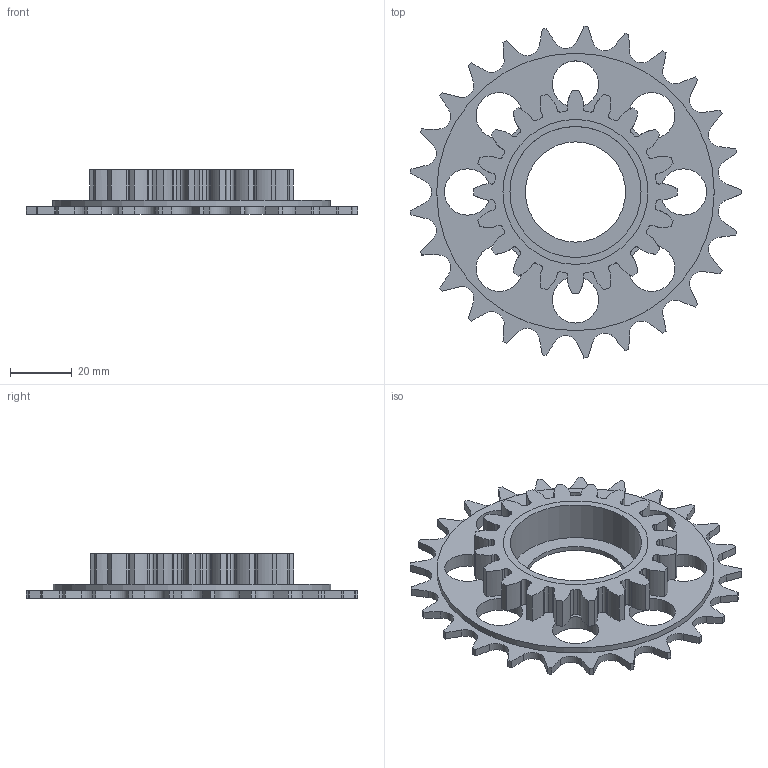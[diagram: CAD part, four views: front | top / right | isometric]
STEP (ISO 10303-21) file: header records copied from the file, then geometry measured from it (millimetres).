
FILE_DESCRIPTION(/* description */ (''),/* implementation_level */ '2;1');
FILE_NAME(/* name */ 'C:/Users/ramar/Desktop/asofij/GearSprocket v4.step',/* time_stamp */ '2021-02-07T11:45:06-06:00',/* author */ (''),/* organization */ (''),/* preprocessor_version */ 'ST-DEVELOPER v18.1',/* originating_system */ 'Autodesk Translation Framework v9.7.1.1290',/* authorisation */ '');
FILE_SCHEMA (('AUTOMOTIVE_DESIGN { 1 0 10303 214 3 1 1 }'));
Length unit declared in the file: millimetre
Products named in the file (3): GearSprocket; Sprocket; Spur Gear (20 teeth)
Assembly tree (2 placements, depth 2):
  GearSprocket
    Sprocket
    Spur Gear (20 teeth)
Bounding box: 107.43 x 107.64 x 14.54 mm (x, y, z)
Volume: 33706.9 mm3; surface area: 25054 mm2
Topology: 2 solids, 2 shells, 280 faces, 819 edges, 546 vertices
Faces by surface type: cylinder 168, plane 72, bspline 40
Full cylindrical faces by diameter (mm): 15 x8, 32.5 x1, 42.5 x1, 47 x2, 90 x1
Entity records: 21024 total; most frequent: CARTESIAN_POINT 13530, ORIENTED_EDGE 1638, DIRECTION 1565, EDGE_CURVE 819, AXIS2_PLACEMENT_3D 581, VERTEX_POINT 546, LINE 403, VECTOR 403
